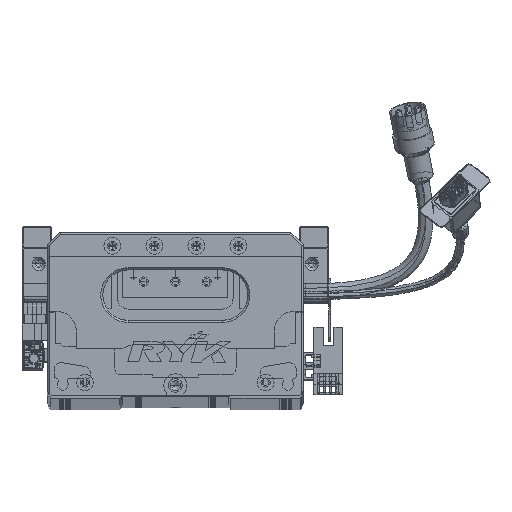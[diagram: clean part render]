
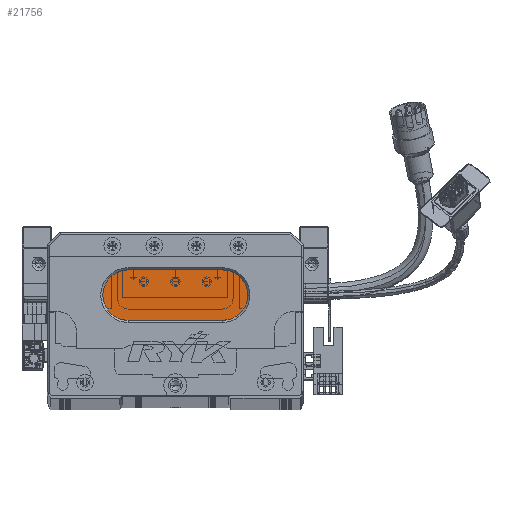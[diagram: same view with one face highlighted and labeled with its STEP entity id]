
A CAD part, top view. The second image highlights one B-rep face of the part: STEP entity #21756.
In plain terms, the highlighted planar face has unit normal (0, 0, 1) as drawn and (0, 0, -1) by its records, which use the part's own axes.
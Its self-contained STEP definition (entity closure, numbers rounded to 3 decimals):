
#429 = DIRECTION ( 'NONE',  ( 0., 0., -1. ) ) ;
#1220 = VERTEX_POINT ( 'NONE', #42501 ) ;
#1257 = AXIS2_PLACEMENT_3D ( 'NONE', #63849, #429, #74462 ) ;
#1608 = CARTESIAN_POINT ( 'NONE',  ( 38.5, 36., 13. ) ) ;
#1972 = EDGE_CURVE ( 'NONE', #128137, #77708, #34557, .T. ) ;
#8397 = EDGE_CURVE ( 'NONE', #1220, #128137, #87641, .T. ) ;
#10172 = CARTESIAN_POINT ( 'NONE',  ( 83.5, 48., 13. ) ) ;
#11545 = DIRECTION ( 'NONE',  ( 0., 0., -1. ) ) ;
#15347 = VECTOR ( 'NONE', #61435, 1000. ) ;
#20820 = VERTEX_POINT ( 'NONE', #47693 ) ;
#21756 = ADVANCED_FACE ( 'NONE', ( #93989 ), #125530, .T. ) ;
#23220 = EDGE_CURVE ( 'NONE', #100981, #1220, #29624, .T. ) ;
#25164 = DIRECTION ( 'NONE',  ( 1., 0., 0. ) ) ;
#26356 = DIRECTION ( 'NONE',  ( 0., 0., -1. ) ) ;
#29117 = EDGE_CURVE ( 'NONE', #20820, #100981, #46627, .T. ) ;
#29624 = CIRCLE ( 'NONE', #86406, 12. ) ;
#34557 = LINE ( 'NONE', #88132, #47754 ) ;
#35901 = CARTESIAN_POINT ( 'NONE',  ( 83.5, 36., 13. ) ) ;
#36911 = DIRECTION ( 'NONE',  ( -1., 0., 0. ) ) ;
#38390 = ORIENTED_EDGE ( 'NONE', *, *, #8397, .T. ) ;
#42501 = CARTESIAN_POINT ( 'NONE',  ( 26.5, 48., 13. ) ) ;
#46627 = LINE ( 'NONE', #35901, #15347 ) ;
#47693 = CARTESIAN_POINT ( 'NONE',  ( 83.5, 36., 13. ) ) ;
#47754 = VECTOR ( 'NONE', #25164, 1000. ) ;
#54915 = CARTESIAN_POINT ( 'NONE',  ( 38.5, 60., 13. ) ) ;
#61435 = DIRECTION ( 'NONE',  ( -1., 0., 0. ) ) ;
#63849 = CARTESIAN_POINT ( 'NONE',  ( 83.5, 48., 13. ) ) ;
#65992 = ORIENTED_EDGE ( 'NONE', *, *, #23220, .T. ) ;
#74462 = DIRECTION ( 'NONE',  ( -1., 0., 0. ) ) ;
#75820 = AXIS2_PLACEMENT_3D ( 'NONE', #10172, #11545, #117220 ) ;
#77708 = VERTEX_POINT ( 'NONE', #86754 ) ;
#80406 = CIRCLE ( 'NONE', #1257, 12. ) ;
#86406 = AXIS2_PLACEMENT_3D ( 'NONE', #89290, #26356, #36911 ) ;
#86754 = CARTESIAN_POINT ( 'NONE',  ( 83.5, 60., 13. ) ) ;
#87641 = CIRCLE ( 'NONE', #131127, 12. ) ;
#88132 = CARTESIAN_POINT ( 'NONE',  ( 83.5, 60., 13. ) ) ;
#89290 = CARTESIAN_POINT ( 'NONE',  ( 38.5, 48., 13. ) ) ;
#93306 = ORIENTED_EDGE ( 'NONE', *, *, #105227, .T. ) ;
#93989 = FACE_OUTER_BOUND ( 'NONE', #103249, .T. ) ;
#95755 = CARTESIAN_POINT ( 'NONE',  ( 38.5, 48., 13. ) ) ;
#96664 = DIRECTION ( 'NONE',  ( 0., 0., -1. ) ) ;
#100981 = VERTEX_POINT ( 'NONE', #1608 ) ;
#101269 = ORIENTED_EDGE ( 'NONE', *, *, #29117, .T. ) ;
#103249 = EDGE_LOOP ( 'NONE', ( #93306, #101269, #65992, #38390, #134087 ) ) ;
#105227 = EDGE_CURVE ( 'NONE', #77708, #20820, #80406, .T. ) ;
#117220 = DIRECTION ( 'NONE',  ( -1., 0., 0. ) ) ;
#125530 = PLANE ( 'NONE',  #75820 ) ;
#128137 = VERTEX_POINT ( 'NONE', #54915 ) ;
#128800 = DIRECTION ( 'NONE',  ( -1., 0., 0. ) ) ;
#131127 = AXIS2_PLACEMENT_3D ( 'NONE', #95755, #96664, #128800 ) ;
#134087 = ORIENTED_EDGE ( 'NONE', *, *, #1972, .T. ) ;
